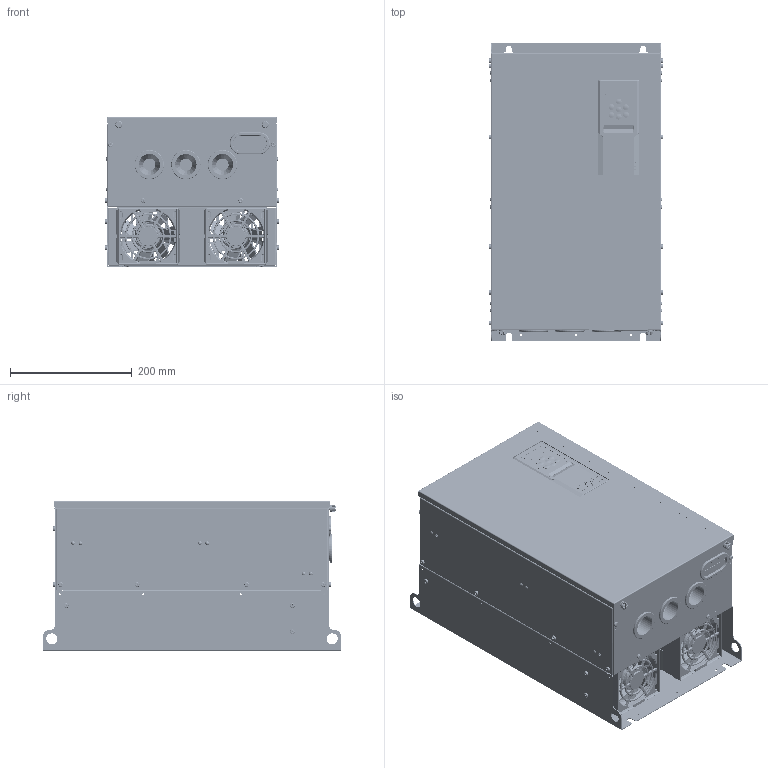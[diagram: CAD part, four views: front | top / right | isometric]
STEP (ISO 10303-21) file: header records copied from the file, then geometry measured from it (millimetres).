
FILE_DESCRIPTION((''),'2;1');
FILE_NAME('AD800-D5-DRIVE_ASM','2025-06-24T17:15:43',('wendong.luo'),(''),'CREO PARAMETRIC BY PTC INC, 2024374','CREO PARAMETRIC BY PTC INC, 2024374','');
FILE_SCHEMA(('CONFIG_CONTROL_DESIGN','GEOMETRIC_VALIDATION_PROPERTIES_MIM'));
Products named in the file (38): D5-MECHANICAL-PART; M0204012; M0204033; RIVETING-NUT-4; M0202008; M0202003; M0202009; M0100015; M0202014; P_FHS_5_12_; FASTEN_ASM; E0400063; E0400064; M0104021; FAN9238; FAN-ASM-9238_ASM; FAN4020; M0104030; M0203033; D5-PU_ASM; M0104033; E0100084; E0400023; E0400008; E0400009; E0400001; E0400011; E0100084_ASM; M0203006; M0203025; M0203032_00; M0104034; M0203053; CU_NEW_ASM; M0100026; M4-MOUNTING-SCREW-RIVET; M0100026_ASM; AD800-D5-DRIVE_ASM
Assembly tree (93 placements, depth 4):
  AD800-D5-DRIVE_ASM
    D5-PU_ASM
      D5-MECHANICAL-PART
      M0204012  x3
      M0204033
      FASTEN_ASM
        RIVETING-NUT-4  x12
        M0202008  x22
        M0202003  x12
        M0202009  x2
        M0100015  x2
        M0202014  x2
        P_FHS_5_12_  x6
      E0400063
      E0400064
      FAN-ASM-9238_ASM  x2
        M0104021
        FAN9238
      FAN4020
      M0104030
      M0203033
    CU_NEW_ASM
      M0104033
      E0100084_ASM
        E0100084
        E0400023
        E0400008
        E0400009  x2
        E0400001
        E0400011
      M0203006
      M0203025
      M0203032_00
      M0104034
      M0203053
    M0100026_ASM
      M0100026
      M4-MOUNTING-SCREW-RIVET  x2
Bounding box: 286.2 x 490 x 246.15 mm (x, y, z)
Volume: 2374767 mm3; surface area: 2215863.4 mm2
Topology: 114 solids, 147 shells, 19120 faces, 50750 edges, 32592 vertices
Faces by surface type: plane 8939, cylinder 4453, bspline 2176, extrusion 2078, cone 810, torus 544, sphere 120
Entity records: 614011 total; most frequent: CARTESIAN_POINT 172586, ORIENTED_EDGE 71338, DIRECTION 55059, EDGE_CURVE 35703, PRESENTATION_STYLE_ASSIGNMENT 33622, STYLED_ITEM 30978, CURVE_STYLE 30925, VECTOR 23723
